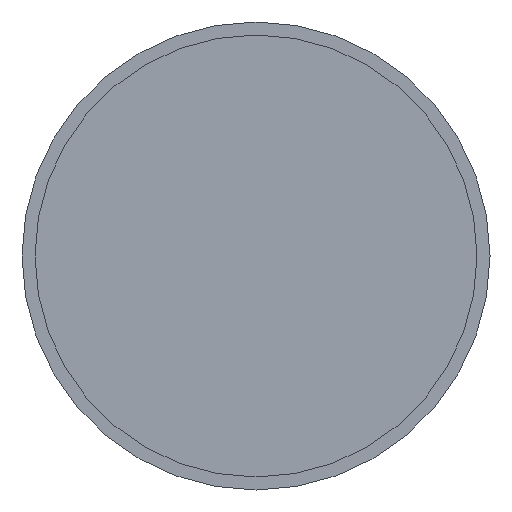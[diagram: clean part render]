
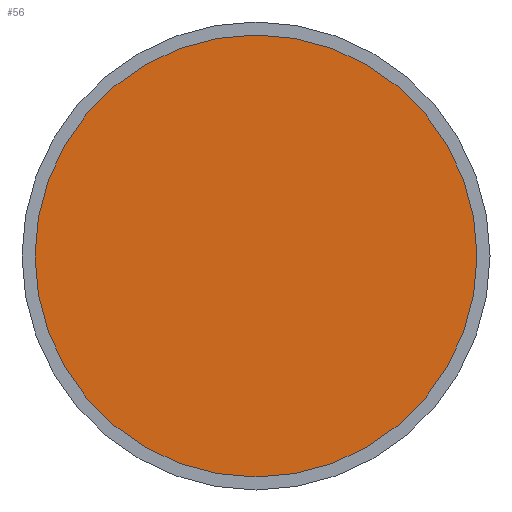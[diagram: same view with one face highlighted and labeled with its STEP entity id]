
A CAD part, front view. The second image highlights one B-rep face of the part: STEP entity #56.
In plain terms, the highlighted planar face has unit normal (0, -1, 0).
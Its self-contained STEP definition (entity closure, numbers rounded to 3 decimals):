
#56=ADVANCED_FACE('',(#93),#95,.T.);
#93=FACE_BOUND('',#94,.T.);
#94=EDGE_LOOP('',(#204));
#95=PLANE('',#96);
#96=AXIS2_PLACEMENT_3D('',#97,#98,#99);
#97=CARTESIAN_POINT('',(0.,-79.,0.));
#98=DIRECTION('',(0.,-1.,0.));
#99=DIRECTION('',(0.,0.,-1.));
#204=ORIENTED_EDGE('',*,*,#227,.T.);
#227=EDGE_CURVE('',#241,#241,#242,.F.);
#241=VERTEX_POINT('',#269);
#242=CIRCLE('',#270,25.5);
#269=CARTESIAN_POINT('',(-25.5,-79.,0.));
#270=AXIS2_PLACEMENT_3D('',#271,#272,#273);
#271=CARTESIAN_POINT('',(0.,-79.,0.));
#272=DIRECTION('',(0.,1.,0.));
#273=DIRECTION('',(-1.,0.,0.));
